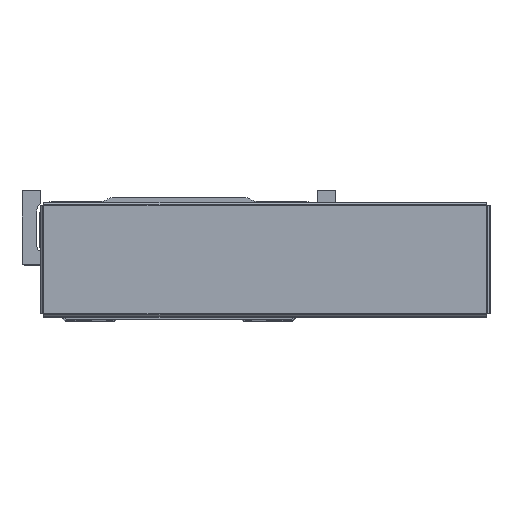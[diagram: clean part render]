
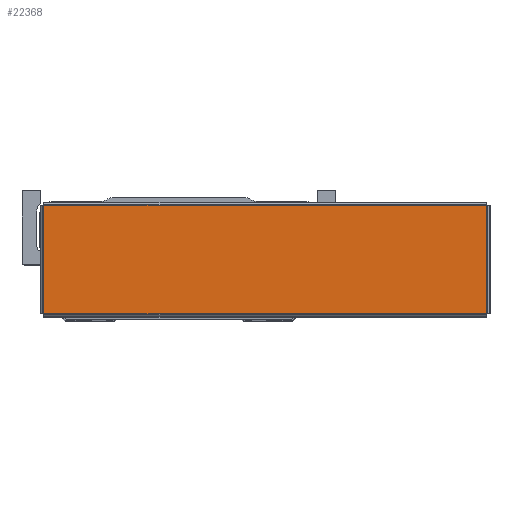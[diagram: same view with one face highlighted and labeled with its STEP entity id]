
A CAD part, top view. The second image highlights one B-rep face of the part: STEP entity #22368.
In plain terms, the highlighted planar face has unit normal (0, 0, 1) as drawn and (0, -1, 0) by its records, which use the part's own axes.
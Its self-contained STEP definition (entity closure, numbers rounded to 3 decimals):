
#4610 = VECTOR ( 'NONE', #5703, 1000. ) ;
#4642 = LINE ( 'NONE', #5693, #4610 ) ;
#4711 = VECTOR ( 'NONE', #5880, 1000. ) ;
#4713 = VECTOR ( 'NONE', #5907, 1000. ) ;
#4738 = VECTOR ( 'NONE', #5869, 1000. ) ;
#4739 = LINE ( 'NONE', #5899, #4713 ) ;
#4757 = LINE ( 'NONE', #5895, #4711 ) ;
#4772 = LINE ( 'NONE', #5866, #4738 ) ;
#5693 = CARTESIAN_POINT ( 'NONE',  ( -128.363, -1.2, 31.393 ) ) ;
#5703 = DIRECTION ( 'NONE',  ( 0., 0., -1. ) ) ;
#5866 = CARTESIAN_POINT ( 'NONE',  ( 128.393, -1.2, 31.363 ) ) ;
#5869 = DIRECTION ( 'NONE',  ( -1., 0., 0. ) ) ;
#5880 = DIRECTION ( 'NONE',  ( 0., 0., 1. ) ) ;
#5895 = CARTESIAN_POINT ( 'NONE',  ( 128.363, -1.2, -31.393 ) ) ;
#5899 = CARTESIAN_POINT ( 'NONE',  ( -128.393, -1.2, -31.363 ) ) ;
#5907 = DIRECTION ( 'NONE',  ( 1., 0., 0. ) ) ;
#6630 = CARTESIAN_POINT ( 'NONE',  ( -128.363, -1.2, -31.363 ) ) ;
#6649 = CARTESIAN_POINT ( 'NONE',  ( 128.363, -1.2, 31.363 ) ) ;
#6656 = CARTESIAN_POINT ( 'NONE',  ( 128.363, -1.2, -31.363 ) ) ;
#6673 = CARTESIAN_POINT ( 'NONE',  ( -128.363, -1.2, 31.363 ) ) ;
#12622 = VERTEX_POINT ( 'NONE', #6673 ) ;
#12642 = VERTEX_POINT ( 'NONE', #6649 ) ;
#12651 = VERTEX_POINT ( 'NONE', #6630 ) ;
#12654 = VERTEX_POINT ( 'NONE', #6656 ) ;
#18065 = ORIENTED_EDGE ( 'NONE', *, *, #24076, .T. ) ;
#18087 = ORIENTED_EDGE ( 'NONE', *, *, #24072, .T. ) ;
#18114 = ORIENTED_EDGE ( 'NONE', *, *, #24011, .T. ) ;
#18115 = ORIENTED_EDGE ( 'NONE', *, *, #24085, .T. ) ;
#22368 = ADVANCED_FACE ( 'NONE', ( #32818 ), #34242, .F. ) ;
#24011 = EDGE_CURVE ( 'NONE', #12622, #12651, #4642, .T. ) ;
#24072 = EDGE_CURVE ( 'NONE', #12642, #12622, #4772, .T. ) ;
#24076 = EDGE_CURVE ( 'NONE', #12654, #12642, #4757, .T. ) ;
#24085 = EDGE_CURVE ( 'NONE', #12651, #12654, #4739, .T. ) ;
#30966 = AXIS2_PLACEMENT_3D ( 'NONE', #34279, #34243, #34246 ) ;
#32818 = FACE_OUTER_BOUND ( 'NONE', #37815, .T. ) ;
#34242 = PLANE ( 'NONE',  #30966 ) ;
#34243 = DIRECTION ( 'NONE',  ( 0., 1., 0. ) ) ;
#34246 = DIRECTION ( 'NONE',  ( 0., 0., 1. ) ) ;
#34279 = CARTESIAN_POINT ( 'NONE',  ( 0., -1.2, 0. ) ) ;
#37815 = EDGE_LOOP ( 'NONE', ( #18087, #18114, #18115, #18065 ) ) ;
